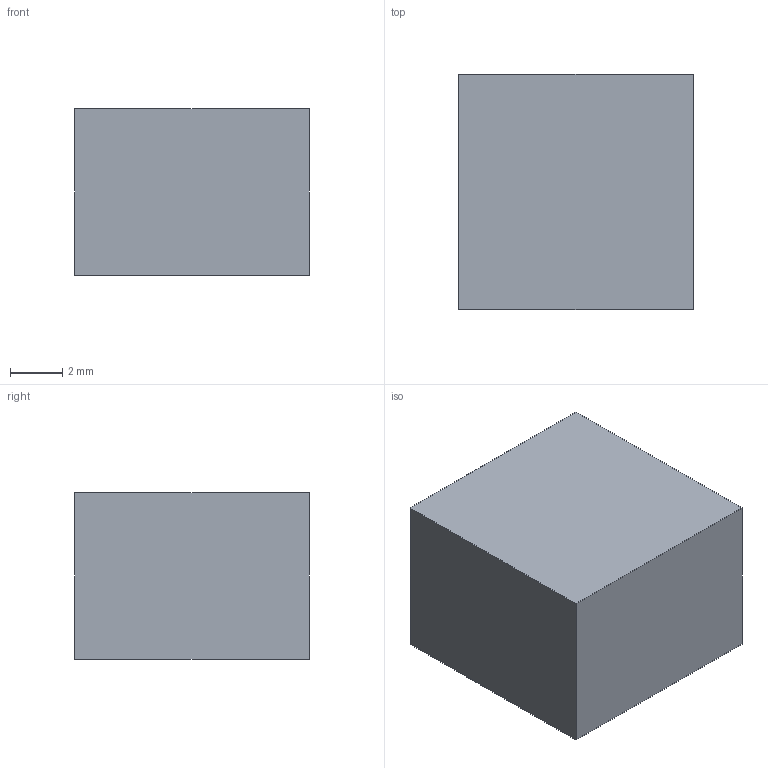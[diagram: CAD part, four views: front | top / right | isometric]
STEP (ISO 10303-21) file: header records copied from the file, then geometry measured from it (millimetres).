
FILE_DESCRIPTION(('Open CASCADE Model'),'2;1');
FILE_NAME('Open CASCADE Shape Model','2026-09-27T04:50:34',('Author'),( 'Open CASCADE'),'Open CASCADE STEP processor 7.8','Open CASCADE 7.8' ,'Unknown');
FILE_SCHEMA(('AUTOMOTIVE_DESIGN { 1 0 10303 214 1 1 1 1 }'));
Length unit declared in the file: millimetre
Products named in the file (1): Open CASCADE STEP translator 7.8 8
Bounding box: 9 x 9 x 6.4 mm (x, y, z)
Volume: 484.3 mm3; surface area: 445.2 mm2
Topology: 1 solids, 1 shells, 14 faces, 30 edges, 20 vertices
Faces by surface type: plane 12, cylinder 2
Entity records: 765 total; most frequent: CARTESIAN_POINT 167, DIRECTION 99, ORIENTED_EDGE 60, PCURVE 60, DEFINITIONAL_REPRESENTATION 60, LINE 54, VECTOR 54, EDGE_CURVE 30
